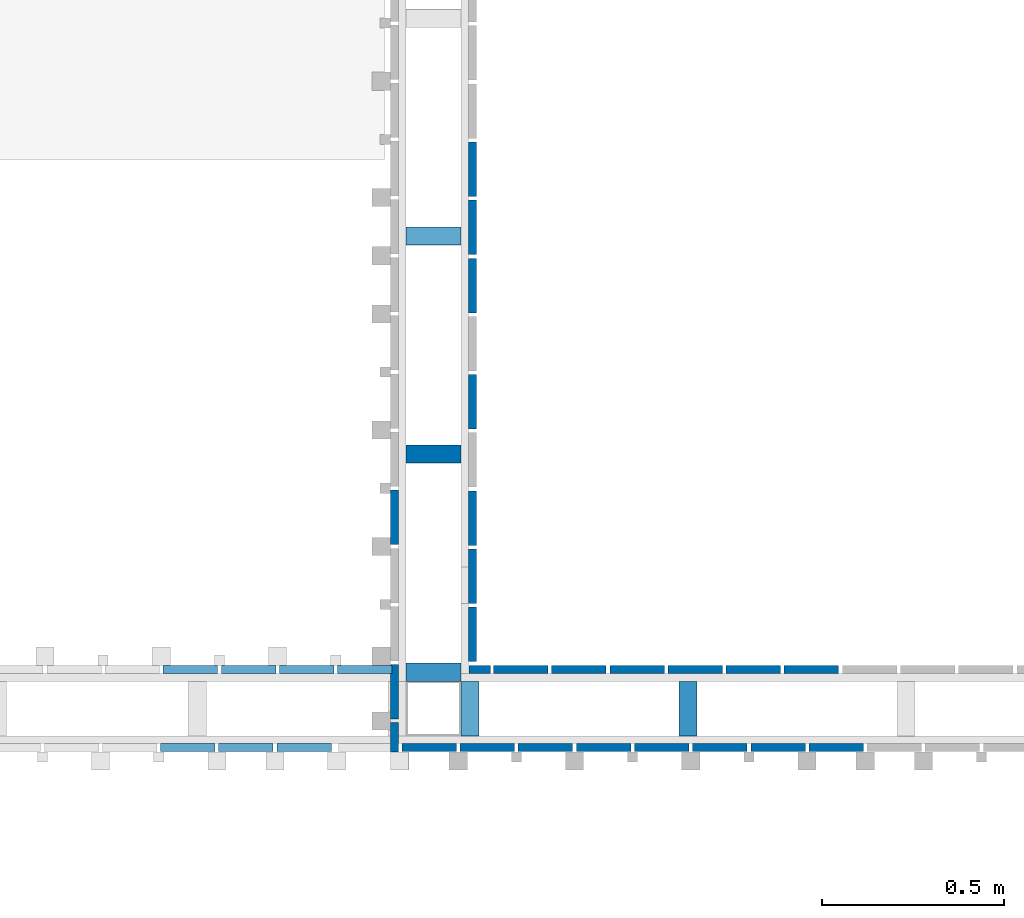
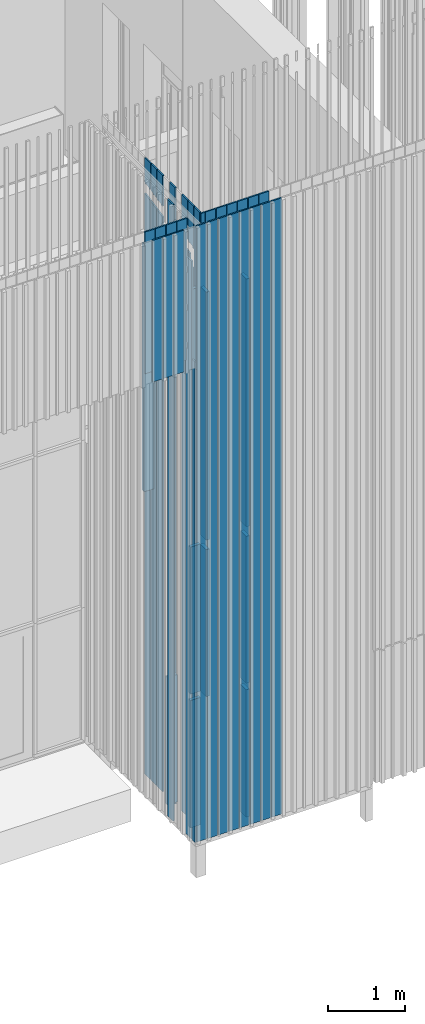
# One storey, part 141 of 390: 42 walls.
"""IFC2X3 building model written with IfcOpenShell, lengths in millimetres."""

from ifc_helpers import new_model, entity, si_unit, converted_unit, derived_unit, money_unit, direction, frame, origin_with_axes, place, context, subcontext, project, spatial, faceted_brep, material, material_list, type_object, element, save


model = new_model("IFC2X3")

# Units and contexts
model_context = context("Model", 3, precision=1e-05, world=origin_with_axes(), true_north=direction((0.0, 1.0)))
body_context = subcontext(model_context, "Body", "Model", "MODEL_VIEW")
ifc_project = project(units=[si_unit("LENGTHUNIT", "METRE", prefix="MILLI"), si_unit("AREAUNIT", "SQUARE_METRE"), si_unit("VOLUMEUNIT", "CUBIC_METRE"), converted_unit("PLANEANGLEUNIT", "DEGREE", entity("IfcPlaneAngleMeasure", 0.0174532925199), si_unit("PLANEANGLEUNIT", "RADIAN"), dimensions=[0, 0, 0, 0, 0, 0, 0]), si_unit("SOLIDANGLEUNIT", "STERADIAN"), money_unit("EUR"), converted_unit("TIMEUNIT", "Year", entity("IfcTimeMeasure", 31556926.0), si_unit("TIMEUNIT", "SECOND"), dimensions=[0, 0, 1, 0, 0, 0, 0]), si_unit("MASSUNIT", "GRAM", prefix="KILO"), si_unit("THERMODYNAMICTEMPERATUREUNIT", "DEGREE_CELSIUS"), si_unit("LUMINOUSINTENSITYUNIT", "LUMEN"), si_unit("ENERGYUNIT", "JOULE", prefix="MEGA"), derived_unit("THERMALCONDUCTANCEUNIT", [(si_unit("POWERUNIT", "WATT"), 1), (si_unit("LENGTHUNIT", "METRE"), -1), (si_unit("THERMODYNAMICTEMPERATUREUNIT", "KELVIN"), -1)]), derived_unit("SPECIFICHEATCAPACITYUNIT", [(si_unit("ENERGYUNIT", "JOULE"), 1), (si_unit("MASSUNIT", "GRAM", prefix="KILO"), -1), (si_unit("THERMODYNAMICTEMPERATUREUNIT", "KELVIN"), -1)]), derived_unit("MASSDENSITYUNIT", [(si_unit("MASSUNIT", "GRAM", prefix="KILO"), 1), (si_unit("VOLUMEUNIT", "CUBIC_METRE"), -1)])], contexts=[model_context])

# Site, building, storey
site_placement = place(None, origin_with_axes())
site = spatial("IfcSite", under=ifc_project, at=site_placement, Name="Site", CompositionType="ELEMENT")
building_placement = place(site_placement, origin_with_axes())
building = spatial("IfcBuilding", under=site, at=building_placement, Name="Building", CompositionType="ELEMENT")
storey_placement = place(building_placement, origin_with_axes())
storey = spatial("IfcBuildingStorey", under=building, at=storey_placement, Name="1 korrus", CompositionType="ELEMENT", Elevation=0.0)

# Walls
ifc_material = material(Name="Site specified")
wall_type = type_object("IfcWallType", Name="Puitfassaadi ribistik", PredefinedType="NOTDEFINED")
wall_1_placement = place(storey_placement, frame((133015.000037, 43299.0000099, 200.000000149), z_axis=(0.0, 0.0, 1.0), x_axis=(0.0, 1.0, 0.0)))
element("IfcWall", 1, at=wall_1_placement, inside=storey, type_object=wall_type, material=ifc_material, Name="Site specified", context=body_context, shape_type="Brep", body=[
    faceted_brep([(25.0, -74.9999999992, 2019.99999987), (-25.0, -74.9999999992, 2019.99999987), (-25.0, -74.9999999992, 0.0), (25.0, -74.9999999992, 0.0), (25.0, 74.9999999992, 2019.99999987), (-25.0, 74.9999999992, 2019.99999987), (-25.0, 74.9999999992, 0.0), (25.0, 74.9999999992, 0.0)], [[[0, 1, 2, 3]], [[4, 5, 1, 0]], [[1, 5, 6, 2]], [[7, 3, 2, 6]], [[4, 0, 3, 7]], [[5, 4, 7, 6]]]),
])
wall_2_placement = place(storey_placement, frame((133715.000037, 42599.0000102, 4800.00000001), z_axis=(0.0, 0.0, 1.0), x_axis=(-1.0, 0.0, 0.0)))
element("IfcWall", 2, at=wall_2_placement, inside=storey, type_object=wall_type, material=ifc_material, Name="Site specified", context=body_context, shape_type="Brep", body=[
    faceted_brep([(25.0, -74.9999999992, 3927.99999761), (-25.0, -74.9999999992, 3927.99999761), (-25.0, -74.9999999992, 0.0), (25.0, -74.9999999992, 0.0), (25.0, 74.9999999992, 3927.99999761), (-25.0, 74.9999999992, 3927.99999761), (-25.0, 74.9999999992, 0.0), (25.0, 74.9999999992, 0.0)], [[[0, 1, 2, 3]], [[4, 5, 1, 0]], [[1, 5, 6, 2]], [[7, 3, 2, 6]], [[4, 0, 3, 7]], [[5, 4, 7, 6]]]),
])
wall_3_placement = place(storey_placement, frame((133323.000037, 42492.0000027, 100.000000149), z_axis=(0.0, 0.0, 1.0), x_axis=(-1.0, 0.0, 0.0)))
element("IfcWall", 3, at=wall_3_placement, inside=storey, type_object=wall_type, material=ifc_material, Name="Site specified", context=body_context, shape_type="Brep", body=[
    faceted_brep([(75.0, -11.0000000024, 9764.99999985), (-75.0, -11.0000000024, 9764.99999985), (-75.0, -11.0000000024, 0.0), (75.0, -11.0000000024, 0.0), (75.0, 11.0000000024, 9764.99999985), (-75.0, 11.0000000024, 9764.99999985), (-75.0, 11.0000000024, 0.0), (75.0, 11.0000000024, 0.0)], [[[0, 1, 2, 3]], [[4, 5, 1, 0]], [[1, 5, 6, 2]], [[7, 3, 2, 6]], [[4, 0, 3, 7]], [[5, 4, 7, 6]]]),
])
wall_4_placement = place(storey_placement, frame((133015.000037, 43899.0000099, 4800.00000001), z_axis=(0.0, 0.0, 1.0), x_axis=(0.0, 1.0, 0.0)))
element("IfcWall", 4, at=wall_4_placement, inside=storey, type_object=wall_type, material=ifc_material, Name="Site specified", context=body_context, shape_type="Brep", body=[
    faceted_brep([(25.0, -74.9999999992, 3927.99999761), (-25.0, -74.9999999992, 3927.99999761), (-25.0, -74.9999999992, 0.0), (25.0, -74.9999999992, 0.0), (25.0, 74.9999999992, 3927.99999761), (-25.0, 74.9999999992, 3927.99999761), (-25.0, 74.9999999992, 0.0), (25.0, 74.9999999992, 0.0)], [[[0, 1, 2, 3]], [[4, 5, 1, 0]], [[1, 5, 6, 2]], [[7, 3, 2, 6]], [[4, 0, 3, 7]], [[5, 4, 7, 6]]]),
])
wall_5_placement = place(storey_placement, frame((133715.000037, 42599.0000102, 200.000000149), z_axis=(0.0, 0.0, 1.0), x_axis=(-1.0, 0.0, 0.0)))
element("IfcWall", 5, at=wall_5_placement, inside=storey, type_object=wall_type, material=ifc_material, Name="Site specified", context=body_context, shape_type="Brep", body=[
    faceted_brep([(25.0, -74.9999999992, 2019.99999987), (-25.0, -74.9999999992, 2019.99999987), (-25.0, -74.9999999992, 0.0), (25.0, -74.9999999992, 0.0), (25.0, 74.9999999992, 2019.99999987), (-25.0, 74.9999999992, 2019.99999987), (-25.0, 74.9999999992, 0.0), (25.0, 74.9999999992, 0.0)], [[[0, 1, 2, 3]], [[4, 5, 1, 0]], [[1, 5, 6, 2]], [[7, 3, 2, 6]], [[4, 0, 3, 7]], [[5, 4, 7, 6]]]),
])
wall_6_placement = place(storey_placement, frame((133142.000037, 42706.0000106, 100.000000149), z_axis=(0.0, 0.0, 1.0), x_axis=(-1.0, 0.0, 0.0)))
element("IfcWall", 6, at=wall_6_placement, inside=storey, type_object=wall_type, material=ifc_material, Name="Site specified", context=body_context, shape_type="Brep", body=[
    faceted_brep([(29.9999999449, -11.0000000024, 9764.99999985), (-29.9999999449, -11.0000000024, 9764.99999985), (-29.9999999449, -11.0000000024, 0.0), (29.9999999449, -11.0000000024, 0.0), (29.9999999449, 11.0000000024, 9764.99999985), (-29.9999999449, 11.0000000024, 9764.99999985), (-29.9999999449, 11.0000000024, 0.0), (29.9999999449, 11.0000000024, 0.0)], [[[0, 1, 2, 3]], [[4, 5, 1, 0]], [[1, 5, 6, 2]], [[7, 3, 2, 6]], [[4, 0, 3, 7]], [[5, 4, 7, 6]]]),
])
wall_7_placement = place(storey_placement, frame((133015.000037, 42699.0000102, 200.000000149), z_axis=(0.0, 0.0, 1.0), x_axis=(0.0, 1.0, 0.0)))
element("IfcWall", 7, at=wall_7_placement, inside=storey, type_object=wall_type, material=ifc_material, Name="Site specified", context=body_context, shape_type="Brep", body=[
    faceted_brep([(25.0, -74.9999999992, 2019.99999987), (-25.0, -74.9999999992, 2019.99999987), (-25.0, -74.9999999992, 0.0), (25.0, -74.9999999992, 0.0), (25.0, 74.9999999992, 2019.99999987), (-25.0, 74.9999999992, 2019.99999987), (-25.0, 74.9999999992, 0.0), (25.0, 74.9999999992, 0.0)], [[[0, 1, 2, 3]], [[4, 5, 1, 0]], [[1, 5, 6, 2]], [[7, 3, 2, 6]], [[4, 0, 3, 7]], [[5, 4, 7, 6]]]),
])
for number, where, z_axis, x_axis, name in (
    (8, (134055.000037, 42706.0000106, 100.000000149), (0.0, 0.0, 1.0), (-1.0, 0.0, 0.0), "Site specified"),
    (9, (133895.000037, 42706.0000106, 100.000000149), (0.0, 0.0, 1.0), (-1.0, 0.0, 0.0), "Site specified"),
    (10, (133735.000037, 42706.0000106, 100.000000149), (0.0, 0.0, 1.0), (-1.0, 0.0, 0.0), "Site specified"),
    (11, (133575.000037, 42706.0000106, 100.000000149), (0.0, 0.0, 1.0), (-1.0, 0.0, 0.0), "Site specified"),
    (12, (133415.000037, 42706.0000106, 100.000000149), (0.0, 0.0, 1.0), (-1.0, 0.0, 0.0), "Site specified"),
    (13, (133255.000037, 42706.0000106, 100.000000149), (0.0, 0.0, 1.0), (-1.0, 0.0, 0.0), "Site specified"),
):
    element("IfcWall", number, at=place(storey_placement, frame(where, z_axis=z_axis, x_axis=x_axis)), inside=storey, type_object=wall_type, material=ifc_material, Name=name, context=body_context, shape_type="Brep", body=[
        faceted_brep([(75.0, -11.0000000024, 9764.99999985), (-75.0, -11.0000000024, 9764.99999985), (-75.0, -11.0000000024, 0.0), (75.0, -11.0000000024, 0.0), (75.0, 11.0000000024, 9764.99999985), (-75.0, 11.0000000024, 9764.99999985), (-75.0, 11.0000000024, 0.0), (75.0, 11.0000000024, 0.0)], [[[0, 1, 2, 3]], [[4, 5, 1, 0]], [[1, 5, 6, 2]], [[7, 3, 2, 6]], [[4, 0, 3, 7]], [[5, 4, 7, 6]]]),
    ])
ifc_material_list = material_list([ifc_material, ifc_material])
wall_8_placement = place(storey_placement, frame((133122.000037, 42963.0000099, 100.000000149), z_axis=(0.0, 0.0, 1.0), x_axis=(0.0, 1.0, 0.0)))
element("IfcWall", 14, at=wall_8_placement, inside=storey, type_object=wall_type, material=ifc_material_list, Name="Site specified", context=body_context, shape_type="Brep", body=[
    faceted_brep([(43.4791878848, -11.0000000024, 9133.74810722), (43.4791816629, -11.0000000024, 9112.278984), (53.2606566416, -11.0000000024, 9114.35810574), (53.2606638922, -11.0000000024, 9135.82722413), (75.0, -11.0000000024, 9140.44806266), (75.0, -11.0000000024, 9764.99999985), (-75.0, -11.0000000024, 9764.99999985), (-74.9998107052, -11.0000000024, 9087.09543549), (-49.4448306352, -11.0000000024, 9092.5273274), (-49.4448341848, -11.0000000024, 9113.99649659), (43.4791878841, 11.0000000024, 9133.74810722), (43.4791816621, 11.0000000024, 9112.278984), (53.2606566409, 11.0000000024, 9114.35810574), (53.2606638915, 11.0000000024, 9135.82722413), (75.0, 11.0000000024, 9140.44806266), (75.0, 11.0000000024, 9764.99999985), (-75.0, 11.0000000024, 9764.99999985), (-74.9998107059, 11.0000000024, 9087.09543549), (-49.444830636, 11.0000000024, 9092.5273274), (-49.4448341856, 11.0000000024, 9113.99649659)], [[[0, 1, 2, 3, 4, 5, 6, 7, 8, 9]], [[10, 11, 1, 0]], [[11, 12, 2, 1]], [[3, 2, 12, 13]], [[13, 14, 4, 3]], [[5, 4, 14, 15]], [[15, 16, 6, 5]], [[16, 17, 7, 6]], [[17, 18, 8, 7]], [[9, 8, 18, 19]], [[10, 0, 9, 19]], [[13, 12, 11, 10, 19, 18, 17, 16, 15, 14]]]),
    faceted_brep([(75.0, 11.0000000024, 0.0), (75.0, 11.0000000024, 8965.62785171), (75.0, -11.0000000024, 8965.62785171), (75.0, -11.0000000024, 0.0), (25.0000927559, 11.0000000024, 8777.99999748), (25.0000927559, 11.0000000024, 8955.00001749), (-75.0, 11.0000000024, 0.0), (-74.9999072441, 11.0000000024, 8777.99999748), (25.0000927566, -11.0000000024, 8955.00001749), (25.0000927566, -11.0000000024, 8777.99999748), (-74.9999072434, -11.0000000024, 8777.99999748), (-75.0, -11.0000000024, 0.0)], [[[0, 1, 2, 3]], [[4, 5, 1, 0, 6, 7]], [[5, 8, 2, 1]], [[3, 2, 8, 9, 10, 11]], [[0, 3, 11, 6]], [[9, 8, 5, 4]], [[11, 10, 7, 6]], [[10, 9, 4, 7]]]),
])
wall_9_placement = place(storey_placement, frame((133122.000037, 43123.0000099, 100.000000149), z_axis=(0.0, 0.0, 1.0), x_axis=(0.0, 1.0, 0.0)))
element("IfcWall", 15, at=wall_9_placement, inside=storey, type_object=wall_type, material=ifc_material_list, Name="Site specified", context=body_context, shape_type="Brep", body=[
    faceted_brep([(-13.8153140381, -11.0000000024, 9155.57883475), (-13.8153310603, -11.0000000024, 9134.10976234), (-4.03385608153, -11.0000000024, 9136.18888409), (-4.03383803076, -11.0000000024, 9157.65795166), (75.0, -11.0000000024, 9174.45711253), (75.0, -11.0000000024, 9764.99999985), (-75.0, -11.0000000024, 9764.99999985), (-75.0, -11.0000000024, 9142.57362828), (-13.8153140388, 11.0000000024, 9155.57883475), (-13.815331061, 11.0000000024, 9134.10976234), (-4.03385608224, 11.0000000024, 9136.18888409), (-4.03383803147, 11.0000000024, 9157.65795166), (75.0, 11.0000000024, 9174.45711253), (75.0, 11.0000000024, 9764.99999985), (-75.0, 11.0000000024, 9764.99999985), (-75.0, 11.0000000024, 9142.57362828)], [[[0, 1, 2, 3, 4, 5, 6, 7]], [[8, 9, 1, 0]], [[9, 10, 2, 1]], [[3, 2, 10, 11]], [[11, 12, 4, 3]], [[5, 4, 12, 13]], [[13, 14, 6, 5]], [[14, 15, 7, 6]], [[8, 0, 7, 15]], [[11, 10, 9, 8, 15, 14, 13, 12]]]),
    faceted_brep([(75.0, 11.0000000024, 0.0), (75.0, 11.0000000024, 8999.63698431), (75.0, -11.0000000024, 8999.63698431), (75.0, -11.0000000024, 0.0), (-75.0, 11.0000000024, 0.0), (-75.0, 11.0000000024, 8967.75342249), (-75.0, -11.0000000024, 8967.75342249), (-75.0, -11.0000000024, 0.0)], [[[0, 1, 2, 3]], [[4, 5, 1, 0]], [[5, 6, 2, 1]], [[3, 2, 6, 7]], [[0, 3, 7, 4]], [[7, 6, 5, 4]]]),
])
wall_10_placement = place(storey_placement, frame((132658.999993, 42492.0000389, 7620.0), z_axis=(0.0, 0.0, 1.0), x_axis=(-1.0, 0.0, 0.0)))
element("IfcWall", 16, at=wall_10_placement, inside=storey, type_object=wall_type, material=ifc_material, Name="Site specified", context=body_context, shape_type="Brep", body=[
    faceted_brep([(75.0, -11.0000000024, 2245.0), (-75.0, -11.0000000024, 2245.0), (-75.0, -11.0000000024, 0.0), (75.0, -11.0000000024, 0.0), (75.0, 11.0000000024, 2245.0), (-75.0, 11.0000000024, 2245.0), (-75.0, 11.0000000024, 0.0), (75.0, 11.0000000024, 0.0)], [[[0, 1, 2, 3]], [[4, 5, 1, 0]], [[1, 5, 6, 2]], [[7, 3, 2, 6]], [[4, 0, 3, 7]], [[5, 4, 7, 6]]]),
])
wall_11_placement = place(storey_placement, frame((133015.000037, 42699.0000099, 2320.00000001), z_axis=(0.0, 0.0, 1.0), x_axis=(0.0, 1.0, 0.0)))
element("IfcWall", 17, at=wall_11_placement, inside=storey, type_object=wall_type, material=ifc_material, Name="Site specified", context=body_context, shape_type="Brep", body=[
    faceted_brep([(25.0, -74.9999999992, 2330.0), (-25.0, -74.9999999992, 2330.0), (-25.0, -74.9999999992, 0.0), (25.0, -74.9999999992, 0.0), (25.0, 74.9999999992, 2330.0), (-25.0, 74.9999999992, 2330.0), (-25.0, 74.9999999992, 0.0), (25.0, 74.9999999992, 0.0)], [[[0, 1, 2, 3]], [[4, 5, 1, 0]], [[1, 5, 6, 2]], [[7, 3, 2, 6]], [[4, 0, 3, 7]], [[5, 4, 7, 6]]]),
])
wall_12_placement = place(storey_placement, frame((133015.000037, 42699.0000099, 4800.00000001), z_axis=(0.0, 0.0, 1.0), x_axis=(0.0, 1.0, 0.0)))
element("IfcWall", 18, at=wall_12_placement, inside=storey, type_object=wall_type, material=ifc_material, Name="Site specified", context=body_context, shape_type="Brep", body=[
    faceted_brep([(25.0, -74.9999999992, 3927.99999761), (-25.0, -74.9999999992, 3927.99999761), (-25.0, -74.9999999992, 0.0), (25.0, -74.9999999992, 0.0), (25.0, 74.9999999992, 3927.99999761), (-25.0, 74.9999999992, 3927.99999761), (-25.0, 74.9999999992, 0.0), (25.0, 74.9999999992, 0.0)], [[[0, 1, 2, 3]], [[4, 5, 1, 0]], [[1, 5, 6, 2]], [[7, 3, 2, 6]], [[4, 0, 3, 7]], [[5, 4, 7, 6]]]),
])
for number, where, z_axis, x_axis, name in (
    (19, (132825.999993, 42706.0000151, 7620.00000604), (0.0, 0.0, 1.0), (1.0, 0.0, 0.0), "Site specified"),
    (20, (132345.999993, 42706.0000301, 7620.00000604), (0.0, 0.0, 1.0), (1.0, 0.0, 0.0), "Site specified"),
    (21, (132505.999993, 42706.0000226, 7620.00000604), (0.0, 0.0, 1.0), (1.0, 0.0, 0.0), "Site specified"),
    (22, (132665.999993, 42706.0000226, 7620.00000604), (0.0, 0.0, 1.0), (1.0, 0.0, 0.0), "Site specified"),
):
    element("IfcWall", number, at=place(storey_placement, frame(where, z_axis=z_axis, x_axis=x_axis)), inside=storey, type_object=wall_type, material=ifc_material, Name=name, context=body_context, shape_type="Brep", body=[
        faceted_brep([(75.0000000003, -11.0, 2245.0), (-74.9999999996, -11.0000000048, 2245.0), (-74.9999999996, -11.0000000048, 0.0), (75.0000000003, -11.0, 0.0), (74.9999999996, 11.0000000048, 2245.0), (-75.0000000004, 11.0, 2245.0), (-75.0000000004, 11.0, 0.0), (74.9999999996, 11.0000000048, 0.0)], [[[0, 1, 2, 3]], [[4, 5, 1, 0]], [[1, 5, 6, 2]], [[7, 3, 2, 6]], [[4, 0, 3, 7]], [[5, 4, 7, 6]]]),
    ])
for number, where, z_axis, x_axis, name in (
    (23, (132338.999993, 42492.0000465, 7620.0), (0.0, 0.0, 1.0), (-1.0, 0.0, 0.0), "Site specified"),
    (24, (132498.999993, 42492.0000465, 7620.0), (0.0, 0.0, 1.0), (-1.0, 0.0, 0.0), "Site specified"),
):
    element("IfcWall", number, at=place(storey_placement, frame(where, z_axis=z_axis, x_axis=x_axis)), inside=storey, type_object=wall_type, material=ifc_material, Name=name, context=body_context, shape_type="Brep", body=[
        faceted_brep([(75.0, -11.0000000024, 2245.0), (-75.0, -11.0000000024, 2245.0), (-75.0, -11.0000000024, 0.0), (75.0, -11.0000000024, 0.0), (75.0, 11.0000000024, 2245.0), (-75.0, 11.0000000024, 2245.0), (-75.0, 11.0000000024, 0.0), (75.0, 11.0000000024, 0.0)], [[[0, 1, 2, 3]], [[4, 5, 1, 0]], [[1, 5, 6, 2]], [[7, 3, 2, 6]], [[4, 0, 3, 7]], [[5, 4, 7, 6]]]),
    ])
wall_13_placement = place(storey_placement, frame((133122.000037, 42803.0000099, 100.000000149), z_axis=(0.0, 0.0, 1.0), x_axis=(0.0, 1.0, 0.0)))
element("IfcWall", 25, at=wall_13_placement, inside=storey, type_object=wall_type, material=ifc_material, Name="Site specified", context=body_context, shape_type="Brep", body=[
    faceted_brep([(75.0, -11.0000000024, 9764.99999985), (-75.0, -11.0000000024, 9764.99999985), (-75.0, -11.0000000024, 0.0), (75.0, -11.0000000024, 0.0), (75.0, 11.0000000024, 9764.99999985), (-75.0, 11.0000000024, 9764.99999985), (-75.0, 11.0000000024, 0.0), (75.0, 11.0000000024, 0.0)], [[[0, 1, 2, 3]], [[4, 5, 1, 0]], [[1, 5, 6, 2]], [[7, 3, 2, 6]], [[4, 0, 3, 7]], [[5, 4, 7, 6]]]),
])
wall_14_placement = place(storey_placement, frame((133122.000037, 44083.0000099, 100.000000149), z_axis=(0.0, 0.0, 1.0), x_axis=(0.0, 1.0, 0.0)))
element("IfcWall", 26, at=wall_14_placement, inside=storey, type_object=wall_type, material=ifc_material_list, Name="Site specified", context=body_context, shape_type="Brep", body=[
    faceted_brep([(53.2396667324, -11.0000000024, 9373.88611011), (53.2395417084, -11.0000000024, 9352.41754581), (63.0210166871, -11.0000000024, 9354.49666756), (63.0211427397, -11.0000000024, 9375.96522702), (75.0, -11.0000000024, 9378.51141173), (75.0, -11.0000000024, 9764.99999985), (-75.0, -11.0000000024, 9764.99999985), (-75.0, -11.0000000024, 9346.62792748), (-49.4658313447, -11.0000000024, 9352.05538258), (-49.4659455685, -11.0000000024, 9330.58676746), (-39.6844705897, -11.0000000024, 9332.66588921), (-39.6843553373, -11.0000000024, 9354.13449948), (53.2396667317, 11.0000000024, 9373.88611011), (53.2395417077, 11.0000000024, 9352.41754581), (63.0210166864, 11.0000000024, 9354.49666756), (63.021142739, 11.0000000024, 9375.96522702), (75.0, 11.0000000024, 9378.51141173), (75.0, 11.0000000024, 9764.99999985), (-75.0, 11.0000000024, 9764.99999985), (-75.0, 11.0000000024, 9346.62792748), (-49.4658313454, 11.0000000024, 9352.05538258), (-49.4659455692, 11.0000000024, 9330.58676746), (-39.6844705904, 11.0000000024, 9332.66588921), (-39.684355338, 11.0000000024, 9354.13449948)], [[[0, 1, 2, 3, 4, 5, 6, 7, 8, 9, 10, 11]], [[12, 13, 1, 0]], [[13, 14, 2, 1]], [[3, 2, 14, 15]], [[15, 16, 4, 3]], [[5, 4, 16, 17]], [[17, 18, 6, 5]], [[18, 19, 7, 6]], [[20, 8, 7, 19]], [[20, 21, 9, 8]], [[21, 22, 10, 9]], [[11, 10, 22, 23]], [[12, 0, 11, 23]], [[15, 14, 13, 12, 23, 22, 21, 20, 19, 18, 17, 16]]]),
    faceted_brep([(75.0, 11.0000000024, 0.0), (75.0, 11.0000000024, 9203.6917799), (75.0, -11.0000000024, 9203.6917799), (75.0, -11.0000000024, 0.0), (-75.0, 11.0000000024, 0.0), (-75.0, 11.0000000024, 9171.80821809), (-75.0, -11.0000000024, 9171.80821809), (-75.0, -11.0000000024, 0.0)], [[[0, 1, 2, 3]], [[4, 5, 1, 0]], [[5, 6, 2, 1]], [[3, 2, 6, 7]], [[0, 3, 7, 4]], [[7, 6, 5, 4]]]),
])
wall_15_placement = place(storey_placement, frame((133122.000037, 43443.0000099, 100.000000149), z_axis=(0.0, 0.0, 1.0), x_axis=(0.0, 1.0, 0.0)))
element("IfcWall", 27, at=wall_15_placement, inside=storey, type_object=wall_type, material=ifc_material_list, Name="Site specified", context=body_context, shape_type="Brep", body=[
    faceted_brep([(-25.698819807, -11.0000000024, 9221.07101736), (-25.6988692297, -11.0000000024, 9199.60209738), (-15.9173942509, -11.0000000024, 9201.68121913), (-15.9173437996, -11.0000000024, 9223.15013427), (75.0, -11.0000000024, 9242.47521226), (75.0, -11.0000000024, 9764.99999985), (-75.0, -11.0000000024, 9764.99999985), (-75.0, -11.0000000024, 9210.59172801), (-25.6988198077, 11.0000000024, 9221.07101736), (-25.6988692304, 11.0000000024, 9199.60209738), (-15.9173942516, 11.0000000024, 9201.68121913), (-15.9173438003, 11.0000000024, 9223.15013427), (75.0, 11.0000000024, 9242.47521226), (75.0, 11.0000000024, 9764.99999985), (-75.0, 11.0000000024, 9764.99999985), (-75.0, 11.0000000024, 9210.59172801)], [[[0, 1, 2, 3, 4, 5, 6, 7]], [[8, 9, 1, 0]], [[9, 10, 2, 1]], [[3, 2, 10, 11]], [[11, 12, 4, 3]], [[5, 4, 12, 13]], [[13, 14, 6, 5]], [[14, 15, 7, 6]], [[8, 0, 7, 15]], [[11, 10, 9, 8, 15, 14, 13, 12]]]),
    faceted_brep([(75.0, 11.0000000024, 0.0), (75.0, 11.0000000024, 9067.6552495), (75.0, -11.0000000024, 9067.6552495), (75.0, -11.0000000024, 0.0), (-75.0, 11.0000000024, 0.0), (-75.0, 11.0000000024, 9035.77168769), (-75.0, -11.0000000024, 9035.77168769), (-75.0, -11.0000000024, 0.0)], [[[0, 1, 2, 3]], [[4, 5, 1, 0]], [[5, 6, 2, 1]], [[3, 2, 6, 7]], [[0, 3, 7, 4]], [[7, 6, 5, 4]]]),
])
wall_16_placement = place(storey_placement, frame((133122.000037, 43763.0000099, 100.000000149), z_axis=(0.0, 0.0, 1.0), x_axis=(0.0, 1.0, 0.0)))
element("IfcWall", 28, at=wall_16_placement, inside=storey, type_object=wall_type, material=ifc_material_list, Name="Site specified", context=body_context, shape_type="Brep", body=[
    faceted_brep([(65.1231725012, -11.0000000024, 9308.3939275), (65.1230798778, -11.0000000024, 9286.92521077), (74.9045548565, -11.0000000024, 9289.00433252), (74.9046485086, -11.0000000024, 9310.47304441), (75.0, -11.0000000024, 9310.493312), (75.0, -11.0000000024, 9764.99999985), (-75.0, -11.0000000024, 9764.99999985), (-75.0, -11.0000000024, 9278.60982775), (-37.5823255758, -11.0000000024, 9286.56319997), (-37.5824073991, -11.0000000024, 9265.09443242), (-27.8009324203, -11.0000000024, 9267.17355417), (-27.8008495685, -11.0000000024, 9288.64231688), (65.1231725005, 11.0000000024, 9308.3939275), (65.123079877, 11.0000000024, 9286.92521077), (74.9045548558, 11.0000000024, 9289.00433252), (74.9046485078, 11.0000000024, 9310.47304441), (75.0, 11.0000000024, 9310.493312), (75.0, 11.0000000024, 9764.99999985), (-75.0, 11.0000000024, 9764.99999985), (-75.0, 11.0000000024, 9278.60982775), (-37.5823255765, 11.0000000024, 9286.56319997), (-37.5824073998, 11.0000000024, 9265.09443242), (-27.8009324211, 11.0000000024, 9267.17355417), (-27.8008495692, 11.0000000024, 9288.64231688)], [[[0, 1, 2, 3, 4, 5, 6, 7, 8, 9, 10, 11]], [[12, 13, 1, 0]], [[13, 14, 2, 1]], [[3, 2, 14, 15]], [[15, 16, 4, 3]], [[5, 4, 16, 17]], [[17, 18, 6, 5]], [[18, 19, 7, 6]], [[20, 8, 7, 19]], [[20, 21, 9, 8]], [[21, 22, 10, 9]], [[11, 10, 22, 23]], [[12, 0, 11, 23]], [[15, 14, 13, 12, 23, 22, 21, 20, 19, 18, 17, 16]]]),
    faceted_brep([(75.0, 11.0000000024, 0.0), (75.0, 11.0000000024, 9135.6735147), (75.0, -11.0000000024, 9135.6735147), (75.0, -11.0000000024, 0.0), (-75.0, 11.0000000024, 0.0), (-75.0, 11.0000000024, 9103.78995289), (-75.0, -11.0000000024, 9103.78995289), (-75.0, -11.0000000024, 0.0)], [[[0, 1, 2, 3]], [[4, 5, 1, 0]], [[5, 6, 2, 1]], [[3, 2, 6, 7]], [[0, 3, 7, 4]], [[7, 6, 5, 4]]]),
])
wall_17_placement = place(storey_placement, frame((133122.000037, 43923.0000099, 100.000000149), z_axis=(0.0, 0.0, 1.0), x_axis=(0.0, 1.0, 0.0)))
element("IfcWall", 29, at=wall_17_placement, inside=storey, type_object=wall_type, material=ifc_material_list, Name="Site specified", context=body_context, shape_type="Brep", body=[
    faceted_brep([(7.82867057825, -11.0000000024, 9330.22465504), (7.82856715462, -11.0000000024, 9308.75598912), (17.6100421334, -11.0000000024, 9310.83511086), (17.6101465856, -11.0000000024, 9332.30377195), (75.0, -11.0000000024, 9344.50236187), (75.0, -11.0000000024, 9764.99999985), (-75.0, -11.0000000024, 9764.99999985), (-75.0, -11.0000000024, 9312.61887761), (7.82867057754, 11.0000000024, 9330.22465504), (7.82856715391, 11.0000000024, 9308.75598912), (17.6100421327, 11.0000000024, 9310.83511086), (17.6101465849, 11.0000000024, 9332.30377195), (75.0, 11.0000000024, 9344.50236187), (75.0, 11.0000000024, 9764.99999985), (-75.0, 11.0000000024, 9764.99999985), (-75.0, 11.0000000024, 9312.61887761)], [[[0, 1, 2, 3, 4, 5, 6, 7]], [[8, 9, 1, 0]], [[9, 10, 2, 1]], [[3, 2, 10, 11]], [[11, 12, 4, 3]], [[5, 4, 12, 13]], [[13, 14, 6, 5]], [[14, 15, 7, 6]], [[8, 0, 7, 15]], [[11, 10, 9, 8, 15, 14, 13, 12]]]),
    faceted_brep([(75.0, 11.0000000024, 0.0), (75.0, 11.0000000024, 9169.6826473), (75.0, -11.0000000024, 9169.6826473), (75.0, -11.0000000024, 0.0), (-75.0, 11.0000000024, 0.0), (-75.0, 11.0000000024, 9137.79908549), (-75.0, -11.0000000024, 9137.79908549), (-75.0, -11.0000000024, 0.0)], [[[0, 1, 2, 3]], [[4, 5, 1, 0]], [[5, 6, 2, 1]], [[3, 2, 6, 7]], [[0, 3, 7, 4]], [[7, 6, 5, 4]]]),
])
wall_18_placement = place(storey_placement, frame((134123.000037, 42491.9999877, 100.000000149), z_axis=(0.0, 0.0, 1.0), x_axis=(-1.0, 0.0, 0.0)))
element("IfcWall", 30, at=wall_18_placement, inside=storey, type_object=wall_type, material=ifc_material, Name="Site specified", context=body_context, shape_type="Brep", body=[
    faceted_brep([(75.0, -11.0000000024, 9764.99999985), (-75.0, -11.0000000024, 9764.99999985), (-75.0, -11.0000000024, 0.0), (75.0, -11.0000000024, 0.0), (75.0, 11.0000000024, 9764.99999985), (-75.0, 11.0000000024, 9764.99999985), (-75.0, 11.0000000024, 0.0), (75.0, 11.0000000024, 0.0)], [[[0, 1, 2, 3]], [[4, 5, 1, 0]], [[1, 5, 6, 2]], [[7, 3, 2, 6]], [[4, 0, 3, 7]], [[5, 4, 7, 6]]]),
])
wall_19_placement = place(storey_placement, frame((132908.000037, 42519.9999699, 100.000000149), z_axis=(0.0, 0.0, 1.0), x_axis=(0.0, 1.0, 0.0)))
element("IfcWall", 31, at=wall_19_placement, inside=storey, type_object=wall_type, material=ifc_material, Name="Site specified", context=body_context, shape_type="Brep", body=[
    faceted_brep([(40.0000399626, -11.0000000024, 7614.99999953), (-40.0000399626, -11.0000000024, 7614.99999953), (-40.0000399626, -11.0000000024, 0.0), (40.0000399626, -11.0000000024, 0.0), (40.0000399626, 11.0000000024, 7614.99999953), (-40.0000399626, 11.0000000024, 7614.99999953), (-40.0000399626, 11.0000000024, 0.0), (40.0000399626, 11.0000000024, 0.0)], [[[0, 1, 2, 3]], [[4, 5, 1, 0]], [[1, 5, 6, 2]], [[7, 3, 2, 6]], [[4, 0, 3, 7]], [[5, 4, 7, 6]]]),
])
for number, where, z_axis, x_axis, name in (
    (32, (132908.000037, 43125.0000099, 100.000000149), (0.0, 0.0, 1.0), (0.0, 1.0, 0.0), "Site specified"),
    (33, (133963.000037, 42491.9999877, 100.000000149), (0.0, 0.0, 1.0), (-1.0, 0.0, 0.0), "Site specified"),
    (34, (133803.000037, 42491.9999952, 100.000000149), (0.0, 0.0, 1.0), (-1.0, 0.0, 0.0), "Site specified"),
):
    element("IfcWall", number, at=place(storey_placement, frame(where, z_axis=z_axis, x_axis=x_axis)), inside=storey, type_object=wall_type, material=ifc_material, Name=name, context=body_context, shape_type="Brep", body=[
        faceted_brep([(75.0, -11.0000000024, 9764.99999985), (-75.0, -11.0000000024, 9764.99999985), (-75.0, -11.0000000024, 0.0), (75.0, -11.0000000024, 0.0), (75.0, 11.0000000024, 9764.99999985), (-75.0, 11.0000000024, 9764.99999985), (-75.0, 11.0000000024, 0.0), (75.0, 11.0000000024, 0.0)], [[[0, 1, 2, 3]], [[4, 5, 1, 0]], [[1, 5, 6, 2]], [[7, 3, 2, 6]], [[4, 0, 3, 7]], [[5, 4, 7, 6]]]),
    ])
for number, where, z_axis, x_axis, name in (
    (35, (133115.000037, 42599.0000099, 2320.00000001), (0.0, 0.0, 1.0), (-1.0, 0.0, 0.0), "Site specified"),
    (36, (133715.000037, 42599.0000102, 2320.00000001), (0.0, 0.0, 1.0), (-1.0, 0.0, 0.0), "Site specified"),
):
    element("IfcWall", number, at=place(storey_placement, frame(where, z_axis=z_axis, x_axis=x_axis)), inside=storey, type_object=wall_type, material=ifc_material, Name=name, context=body_context, shape_type="Brep", body=[
        faceted_brep([(25.0, -74.9999999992, 2330.0), (-25.0, -74.9999999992, 2330.0), (-25.0, -74.9999999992, 0.0), (25.0, -74.9999999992, 0.0), (25.0, 74.9999999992, 2330.0), (-25.0, 74.9999999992, 2330.0), (-25.0, 74.9999999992, 0.0), (25.0, 74.9999999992, 0.0)], [[[0, 1, 2, 3]], [[4, 5, 1, 0]], [[1, 5, 6, 2]], [[7, 3, 2, 6]], [[4, 0, 3, 7]], [[5, 4, 7, 6]]]),
    ])
for number, where, z_axis, x_axis, name in (
    (37, (133483.000037, 42492.0000027, 100.000000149), (0.0, 0.0, 1.0), (-1.0, 0.0, 0.0), "Site specified"),
    (38, (133643.000037, 42491.9999952, 100.000000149), (0.0, 0.0, 1.0), (-1.0, 0.0, 0.0), "Site specified"),
):
    element("IfcWall", number, at=place(storey_placement, frame(where, z_axis=z_axis, x_axis=x_axis)), inside=storey, type_object=wall_type, material=ifc_material, Name=name, context=body_context, shape_type="Brep", body=[
        faceted_brep([(75.0, -11.0000000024, 9764.99999985), (-75.0, -11.0000000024, 9764.99999985), (-75.0, -11.0000000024, 0.0), (75.0, -11.0000000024, 0.0), (75.0, 11.0000000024, 9764.99999985), (-75.0, 11.0000000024, 9764.99999985), (-75.0, 11.0000000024, 0.0), (75.0, 11.0000000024, 0.0)], [[[0, 1, 2, 3]], [[4, 5, 1, 0]], [[1, 5, 6, 2]], [[7, 3, 2, 6]], [[4, 0, 3, 7]], [[5, 4, 7, 6]]]),
    ])
wall_20_placement = place(storey_placement, frame((132908.000037, 42645.0000099, 100.000000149), z_axis=(0.0, 0.0, 1.0), x_axis=(0.0, 1.0, 0.0)))
element("IfcWall", 39, at=wall_20_placement, inside=storey, type_object=wall_type, material=ifc_material, Name="Site specified", context=body_context, shape_type="Brep", body=[
    faceted_brep([(-75.0, 11.0000000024, 9160.00000589), (75.0, 11.0000000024, 9160.00000589), (75.0, 11.0000000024, 0.0), (-75.0, 11.0000000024, 0.0), (29.0000003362, 11.0000000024, 9010.00000589), (29.0000003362, 11.0000000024, 8915.00000589), (50.0000003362, 11.0000000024, 8915.00000589), (50.0000003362, 11.0000000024, 9010.00000589), (28.9999999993, 11.0000000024, 8410.00000589), (28.9999999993, 11.0000000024, 8315.00000589), (49.9999999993, 11.0000000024, 8315.00000589), (49.9999999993, 11.0000000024, 8410.00000589), (28.9999999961, 11.0000000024, 7810.00000589), (28.9999999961, 11.0000000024, 7715.00000589), (49.9999999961, 11.0000000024, 7715.00000589), (49.9999999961, 11.0000000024, 7810.00000589), (-75.0, -11.0000000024, 9160.00000589), (75.0, -11.0000000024, 9160.00000589), (75.0, -11.0000000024, 0.0), (-75.0, -11.0000000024, 0.0), (29.0000003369, -11.0000000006, 9010.00000589), (29.0000003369, -11.0000000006, 8915.00000589), (50.0000003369, -11.0, 8915.00000589), (50.0000003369, -11.0, 9010.00000589), (29.0, -11.0000000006, 8410.00000589), (29.0, -11.0000000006, 8315.00000589), (50.0, -11.0, 8315.00000589), (50.0, -11.0, 8410.00000589), (28.9999999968, -11.0000000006, 7810.00000589), (28.9999999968, -11.0000000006, 7715.00000589), (49.9999999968, -11.0, 7715.00000589), (49.9999999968, -11.0, 7810.00000589)], [[[0, 1, 2, 3], [4, 5, 6, 7], [8, 9, 10, 11], [12, 13, 14, 15]], [[1, 0, 16, 17]], [[1, 17, 18, 2]], [[2, 18, 19, 3]], [[16, 0, 3, 19]], [[4, 20, 21, 5]], [[5, 21, 22, 6]], [[6, 22, 23, 7]], [[7, 23, 20, 4]], [[8, 24, 25, 9]], [[9, 25, 26, 10]], [[10, 26, 27, 11]], [[11, 27, 24, 8]], [[12, 28, 29, 13]], [[13, 29, 30, 14]], [[14, 30, 31, 15]], [[15, 31, 28, 12]], [[17, 16, 19, 18], [22, 21, 20, 23], [26, 25, 24, 27], [30, 29, 28, 31]]]),
])
for number, where, z_axis, x_axis, name in (
    (40, (133003.000037, 42492.0000102, 100.000000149), (0.0, 0.0, 1.0), (-1.0, 0.0, 0.0), "Site specified"),
    (41, (133163.000037, 42492.0000102, 100.000000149), (0.0, 0.0, 1.0), (-1.0, 0.0, 0.0), "Site specified"),
):
    element("IfcWall", number, at=place(storey_placement, frame(where, z_axis=z_axis, x_axis=x_axis)), inside=storey, type_object=wall_type, material=ifc_material, Name=name, context=body_context, shape_type="Brep", body=[
        faceted_brep([(75.0, -11.0000000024, 9764.99999985), (-75.0, -11.0000000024, 9764.99999985), (-75.0, -11.0000000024, 0.0), (75.0, -11.0000000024, 0.0), (75.0, 11.0000000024, 9764.99999985), (-75.0, 11.0000000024, 9764.99999985), (-75.0, 11.0000000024, 0.0), (75.0, 11.0000000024, 0.0)], [[[0, 1, 2, 3]], [[4, 5, 1, 0]], [[1, 5, 6, 2]], [[7, 3, 2, 6]], [[4, 0, 3, 7]], [[5, 4, 7, 6]]]),
    ])
wall_21_placement = place(storey_placement, frame((133115.000037, 42599.0000099, 4800.00000001), z_axis=(0.0, 0.0, 1.0), x_axis=(-1.0, 0.0, 0.0)))
element("IfcWall", 42, at=wall_21_placement, inside=storey, type_object=wall_type, material=ifc_material, Name="Site specified", context=body_context, shape_type="Brep", body=[
    faceted_brep([(25.0, -74.9999999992, 3927.99999761), (-25.0, -74.9999999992, 3927.99999761), (-25.0, -74.9999999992, 0.0), (25.0, -74.9999999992, 0.0), (25.0, 74.9999999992, 3927.99999761), (-25.0, 74.9999999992, 3927.99999761), (-25.0, 74.9999999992, 0.0), (25.0, 74.9999999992, 0.0)], [[[0, 1, 2, 3]], [[4, 5, 1, 0]], [[1, 5, 6, 2]], [[7, 3, 2, 6]], [[4, 0, 3, 7]], [[5, 4, 7, 6]]]),
])

save(model, "model.ifc")
